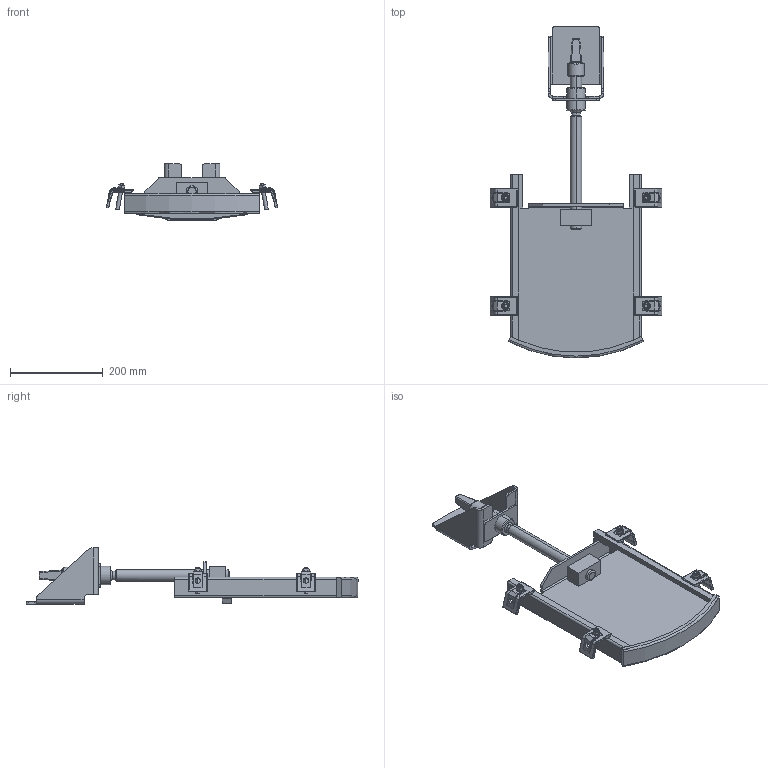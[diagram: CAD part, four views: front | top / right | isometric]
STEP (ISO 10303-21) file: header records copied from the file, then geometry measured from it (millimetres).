
FILE_DESCRIPTION (( 'STEP AP214' ), '1' );
FILE_NAME ('LW 200 Schacht1200 betoniert.STEP', '2022-05-19T10:33:38', ( '' ), ( '' ), 'SwSTEP 2.0', 'SolidWorks 2021', '' );
FILE_SCHEMA (( 'AUTOMOTIVE_DESIGN' ));
Length unit declared in the file: millimetre
Products named in the file (1): LW 200 Schacht1200 betoniert
Bounding box: 369.47 x 715 x 121 mm (x, y, z)
Volume: 1893376.8 mm3; surface area: 524226.3 mm2
Topology: 1 solids, 5 shells, 773 faces, 1830 edges, 1030 vertices
Faces by surface type: cylinder 299, plane 242, cone 62, sphere 60, torus 56, bspline 54
Entity records: 32284 total; most frequent: CARTESIAN_POINT 6714, DIRECTION 3668, ORIENTED_EDGE 3540, EDGE_CURVE 1770, AXIS2_PLACEMENT_3D 1442, VERTEX_POINT 1022, EDGE_LOOP 818, LINE 784
